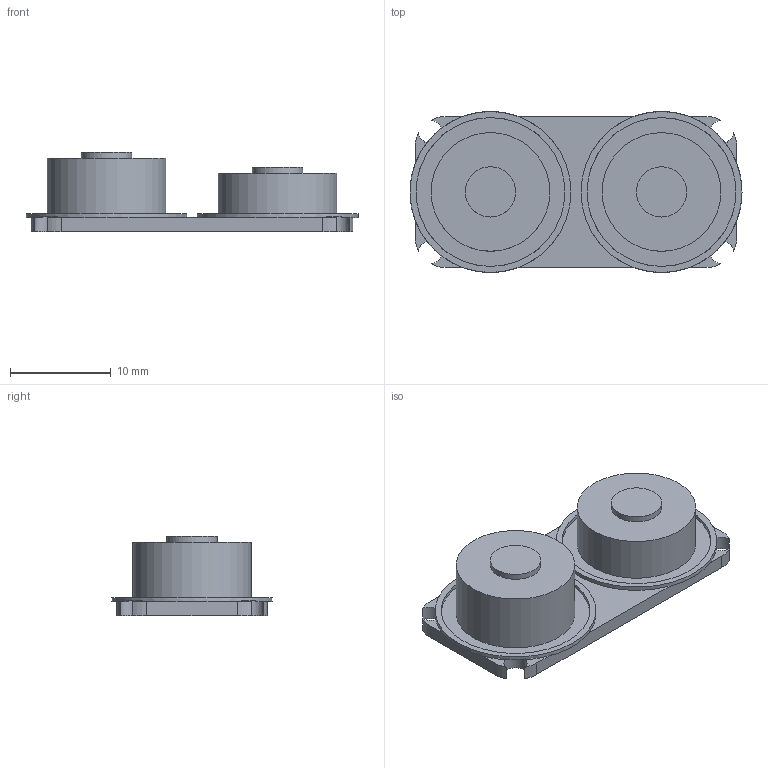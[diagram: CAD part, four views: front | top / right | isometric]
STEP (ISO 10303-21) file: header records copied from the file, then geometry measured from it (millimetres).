
FILE_DESCRIPTION(('Open CASCADE Model'),'2;1');
FILE_NAME('Open CASCADE Shape Model','2026-10-09T15:33:22',('Author'),( 'Open CASCADE'),'Open CASCADE STEP processor 7.9','Open CASCADE 7.9' ,'Unknown');
FILE_SCHEMA(('AUTOMOTIVE_DESIGN { 1 0 10303 214 1 1 1 1 }'));
Length unit declared in the file: millimetre
Products named in the file (1): Open CASCADE STEP translator 7.9 6
Bounding box: 33 x 16 x 7.95 mm (x, y, z)
Volume: 1053.6 mm3; surface area: 2065.7 mm2
Topology: 1 solids, 1 shells, 60 faces, 156 edges, 100 vertices
Faces by surface type: plane 36, cylinder 24
Full cylindrical faces by diameter (mm): 3.6 x2, 5 x2, 9.8 x2, 11.8 x2, 14.8 x2, 16 x2
Entity records: 4056 total; most frequent: CARTESIAN_POINT 881, DIRECTION 640, ORIENTED_EDGE 312, PCURVE 312, DEFINITIONAL_REPRESENTATION 312, LINE 284, VECTOR 284, EDGE_CURVE 156
